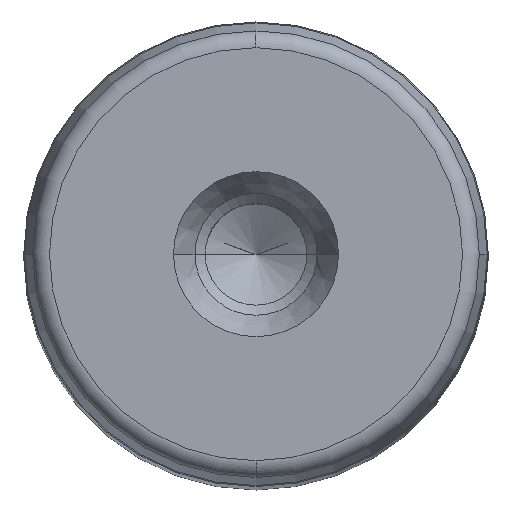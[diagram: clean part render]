
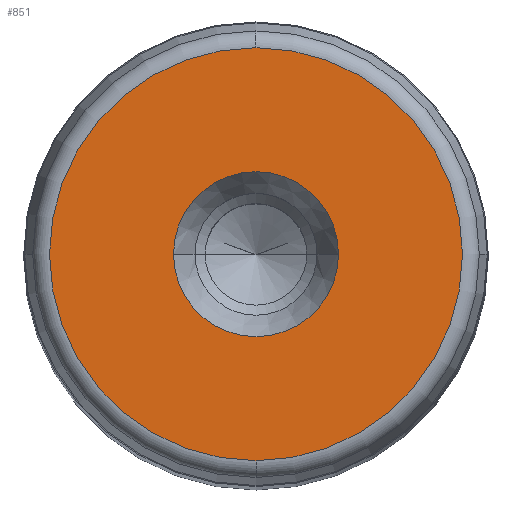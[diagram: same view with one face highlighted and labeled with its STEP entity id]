
A CAD part, top view. The second image highlights one B-rep face of the part: STEP entity #851.
In plain terms, the highlighted planar face has unit normal (0, 0, 1) as drawn and (0, 1, 0) by its records, which use the part's own axes.
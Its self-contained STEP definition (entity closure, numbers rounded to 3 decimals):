
#281=CARTESIAN_POINT('',(14.2,355.0,0.0));
#282=VERTEX_POINT('',#281);
#289=CARTESIAN_POINT('',(-14.2,355.0,0.));
#290=VERTEX_POINT('',#289);
#291=CARTESIAN_POINT('',(0.0,355.0,0.0));
#292=DIRECTION('',(0.0,1.0,0.0));
#293=DIRECTION('',(1.0,0.0,0.0));
#294=AXIS2_PLACEMENT_3D('',#291,#292,#293);
#295=CIRCLE('',#294,14.2);
#296=EDGE_CURVE('',#282,#290,#295,.T.);
#313=CARTESIAN_POINT('',(0.0,355.,35.554));
#314=VERTEX_POINT('',#313);
#324=CARTESIAN_POINT('',(0.,355.,-35.554));
#325=VERTEX_POINT('',#324);
#326=CARTESIAN_POINT('',(0.0,355.,0.0));
#327=DIRECTION('',(0.0,1.0,0.0));
#328=DIRECTION('',(1.0,0.0,0.0));
#329=AXIS2_PLACEMENT_3D('',#326,#327,#328);
#330=CIRCLE('',#329,35.554);
#331=EDGE_CURVE('',#325,#314,#330,.T.);
#812=CARTESIAN_POINT('',(35.554,355.,0.0));
#813=VERTEX_POINT('',#812);
#814=CARTESIAN_POINT('',(0.0,355.,0.0));
#815=DIRECTION('',(0.0,1.0,0.0));
#816=DIRECTION('',(1.0,0.0,0.0));
#817=AXIS2_PLACEMENT_3D('',#814,#815,#816);
#818=CIRCLE('',#817,35.554);
#819=EDGE_CURVE('',#813,#325,#818,.T.);
#821=CARTESIAN_POINT('',(0.0,355.,0.0));
#822=DIRECTION('',(0.0,1.0,0.0));
#823=DIRECTION('',(1.0,0.0,0.0));
#824=AXIS2_PLACEMENT_3D('',#821,#822,#823);
#825=CIRCLE('',#824,35.554);
#826=EDGE_CURVE('',#314,#813,#825,.T.);
#831=CARTESIAN_POINT('',(-39.11,355.0,-39.11));
#832=DIRECTION('',(0.0,1.0,0.0));
#833=DIRECTION('',(0.0,0.0,1.0));
#834=AXIS2_PLACEMENT_3D('',#831,#832,#833);
#835=PLANE('',#834);
#836=ORIENTED_EDGE('',*,*,#819,.T.);
#837=ORIENTED_EDGE('',*,*,#331,.T.);
#838=ORIENTED_EDGE('',*,*,#826,.T.);
#839=EDGE_LOOP('',(#836,#837,#838));
#840=FACE_OUTER_BOUND('',#839,.T.);
#841=ORIENTED_EDGE('',*,*,#296,.F.);
#842=CARTESIAN_POINT('',(0.0,355.0,0.0));
#843=DIRECTION('',(0.0,1.0,0.0));
#844=DIRECTION('',(1.0,0.0,0.0));
#845=AXIS2_PLACEMENT_3D('',#842,#843,#844);
#846=CIRCLE('',#845,14.2);
#847=EDGE_CURVE('',#290,#282,#846,.T.);
#848=ORIENTED_EDGE('',*,*,#847,.F.);
#849=EDGE_LOOP('',(#841,#848));
#850=FACE_BOUND('',#849,.T.);
#851=ADVANCED_FACE('',(#840,#850),#835,.T.);
